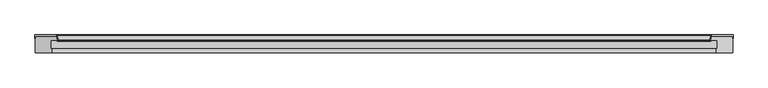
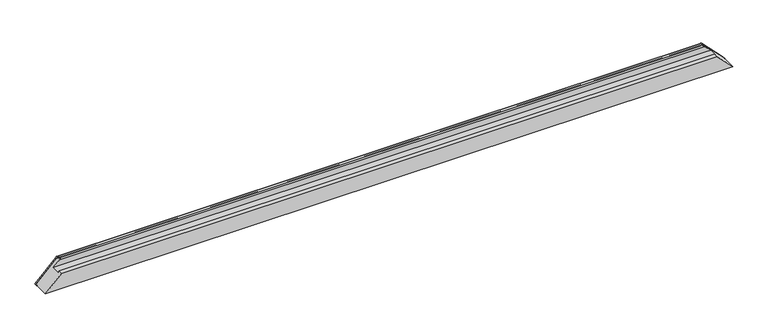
"""IFC4 building model written with IfcOpenShell, lengths in millimetres: proxy geometry, Weiku - Montante - Caixilho 02.2.01.005 : Weiku - Montante - Caixilho 02.2.01.005."""

from ifc_helpers import new_model, si_unit, frame, origin, place, context, project, spatial, polyline, ellipse_curve, source, transform, mapped, element, save
from ifc_brep_helpers import plane_surface, cylinder_surface, revolved_surface, advanced_brep


def generic_models_9984576e(model_context):
    return source(origin(), model_context, "Body", "AdvancedBrep", [
        advanced_brep(
        [(983.4663236, 4.0, 64.0336764), (982.5003978, 3.258819, 64.9996022), (978.6863753, -10.9753067, 68.8136247), (981.3909676, -14.5, 66.1090324), (981.3909676, -12.5, 66.1090324), (980.618227, -11.4929448, 66.881773), (983.1019557, -2.2235429, 64.3980443), (985.9997332, 0.0, 61.5002668), (1047.5, 0.0, 0.0), (1047.5, -6.4862095, 0.0), (1048.5, -6.4862095, -1.0), (1048.5, 4.0, -1.0), (-1048.5, 4.0, -1.0), (-1048.5, -6.4862095, -1.0), (-1047.5, -6.4862095, 0.0), (-1047.5, 0.0, 0.0), (-985.9997332, 0.0, 61.5002668), (-983.1019557, -2.2235429, 64.3980443), (-980.618227, -11.4929448, 66.881773), (-981.3909676, -12.5, 66.1090324), (-981.3909676, -14.5, 66.1090324), (-978.6863753, -10.9753067, 68.8136247), (-982.5003978, 3.258819, 64.9996022), (-983.4663236, 4.0, 64.0336764)],
        [
            (0, 1, ellipse_curve(frame((983.4663236, 3.0, 64.0336764), z_axis=(0.7071067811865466, 0.0, 0.7071067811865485), x_axis=(-0.7071067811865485, 0.0, 0.7071067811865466)), 1.4142136, 1.0)),
            (1, 2),
            (2, 3, ellipse_curve(frame((981.3909676, -11.7, 66.1090324), z_axis=(0.7071067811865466, 0.0, 0.7071067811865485), x_axis=(-0.7071067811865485, 0.0, 0.7071067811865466)), 3.959798, 2.8)),
            (3, 4),
            (4, 5, ellipse_curve(frame((981.3909676, -11.7, 66.1090324), z_axis=(-0.7071067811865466, 0.0, -0.7071067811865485), x_axis=(0.7071067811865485, 0.0, -0.7071067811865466)), 1.1313708, 0.8)),
            (5, 6),
            (6, 7, ellipse_curve(frame((985.9997332, -3.0, 61.5002668), z_axis=(-0.7071067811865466, 0.0, -0.7071067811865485), x_axis=(0.7071067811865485, 0.0, -0.7071067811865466)), 4.2426407, 3.0)),
            (7, 8),
            (8, 9),
            (9, 10),
            (10, 11),
            (11, 0),
            (12, 13),
            (13, 14),
            (14, 15),
            (15, 16),
            (16, 17, ellipse_curve(frame((-985.9997332, -3.0, 61.5002668), z_axis=(0.707106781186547, 0.0, -0.707106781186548), x_axis=(0.7071067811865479, 0.0, 0.707106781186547)), 4.2426407, 3.0)),
            (17, 18),
            (18, 19, ellipse_curve(frame((-981.3909676, -11.7, 66.1090324), z_axis=(0.707106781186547, 0.0, -0.707106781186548), x_axis=(0.7071067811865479, 0.0, 0.707106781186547)), 1.1313708, 0.8)),
            (19, 20),
            (20, 21, ellipse_curve(frame((-981.3909676, -11.7, 66.1090324), z_axis=(-0.707106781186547, 0.0, 0.707106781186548), x_axis=(-0.7071067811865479, 0.0, -0.707106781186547)), 3.959798, 2.8)),
            (21, 22),
            (22, 23, ellipse_curve(frame((-983.4663236, 3.0, 64.0336764), z_axis=(-0.707106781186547, 0.0, 0.707106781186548), x_axis=(-0.7071067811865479, 0.0, -0.707106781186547)), 1.4142136, 1.0)),
            (23, 12),
            (11, 12),
            (23, 0),
            (22, 1),
            (21, 2),
            (20, 3),
            (19, 4),
            (18, 5),
            (17, 6),
            (16, 7),
            (15, 8),
            (14, 9),
            (13, 10),
        ],
        [
            plane_surface(frame((977.5, 15.0, 70.0), z_axis=(0.7071067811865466, 0.0, 0.7071067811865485), x_axis=(0.0, -1.0, 0.0))),
            plane_surface(frame((-1117.5, 15.0, -70.0), z_axis=(-0.707106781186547, 0.0, 0.707106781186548), x_axis=(0.0, -1.0, 0.0))),
            plane_surface(frame((-1050.3284271, 4.0, -1.0), z_axis=(0.0, 1.0, 0.0), x_axis=(1.0, 0.0, 0.0))),
            cylinder_surface(frame((-1050.3284271, 3.0, 64.0336764), z_axis=(-1.0, 0.0, 0.0), x_axis=(0.0, -1.0, 0.0)), 1.0),
            plane_surface(frame((-1050.3284271, 3.258819, 64.9996022), z_axis=(0.0, 0.25881904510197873, 0.9659258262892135), x_axis=(1.0, 0.0, 0.0))),
            cylinder_surface(frame((-1050.3284271, -11.7, 66.1090324), z_axis=(-1.0, 0.0, 0.0), x_axis=(0.0, -1.0, 0.0)), 2.8),
            plane_surface(frame((-1050.3284271, -14.5, 66.1090324), z_axis=(0.0, 0.0, -1.0), x_axis=(1.0, 0.0, 0.0))),
            revolved_surface(polyline([(982.1909675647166, -12.5, 66.1090324), (-982.1909675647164, -12.5, 66.1090324)]), (-1050.3284271, -11.7, 66.1090324), (1.0, 0.0, 0.0)),
            plane_surface(frame((-1050.3284271, -11.4929448, 66.881773), z_axis=(0.0, -0.2588190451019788, -0.9659258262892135), x_axis=(1.0, 0.0, 0.0))),
            revolved_surface(polyline([(988.9997332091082, -6.0, 61.5002668), (-988.9997332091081, -6.0, 61.5002668)]), (-1050.3284271, -3.0, 61.5002668), (1.0, 0.0, 0.0)),
            plane_surface(frame((-1050.3284271, 0.0, 61.5002668), z_axis=(0.0, -1.0, 0.0), x_axis=(1.0, 0.0, 0.0))),
            plane_surface(frame((-1050.3284271, 0.0, 0.0), z_axis=(0.0, 0.0, 1.0), x_axis=(1.0, 0.0, 0.0))),
            plane_surface(frame((-1050.3284271, -6.4862095, 0.0), z_axis=(0.0, -1.0, 0.0), x_axis=(1.0, 0.0, 0.0))),
            plane_surface(frame((-1050.3284271, -6.4862095, -1.0), z_axis=(0.0, 0.0, -1.0), x_axis=(1.0, 0.0, 0.0))),
        ],
        [
            (0, [[1, 2, 3, 4, 5, 6, 7, 8, 9, 10, 11, 12]]),
            (1, [[13, 14, 15, 16, 17, 18, 19, 20, 21, 22, 23, 24]]),
            (2, [[25, -24, 26, -12]]),
            (3, [[-26, -23, 27, -1]]),
            (4, [[-27, -22, 28, -2]]),
            (5, [[-28, -21, 29, -3]]),
            (6, [[-29, -20, 30, -4]]),
            (7, [[-30, -19, 31, -5]]),
            (8, [[-31, -18, 32, -6]]),
            (9, [[-32, -17, 33, -7]]),
            (10, [[-33, -16, 34, -8]]),
            (11, [[-34, -15, 35, -9]]),
            (12, [[-35, -14, 36, -10]]),
            (13, [[-36, -13, -25, -11]]),
        ],
    ),
        advanced_brep(
        [(-1001.5, -12.5, 46.0), (1001.5, -12.5, 46.0), (981.3909676, -12.5, 66.1090324), (-981.3909676, -12.5, 66.1090324), (-1001.5, -37.8314286, 46.0), (1001.5, -37.8314286, 46.0), (-998.5, -37.027581, 49.0), (998.5, -37.027581, 49.0), (-998.5, -50.0, 49.0), (998.5, -50.0, 49.0), (1047.5, -50.0, 0.0), (-1047.5, -50.0, 0.0), (-1047.5, 0.0, 0.0), (1047.5, 0.0, 0.0), (-985.9997332, 0.0, 61.5002668), (985.9997332, 0.0, 61.5002668), (-980.618227, -11.4929448, 66.881773), (980.618227, -11.4929448, 66.881773), (983.1019557, -2.2235429, 64.3980443), (-983.1019557, -2.2235429, 64.3980443)],
        [
            (0, 1),
            (1, 2),
            (2, 3),
            (3, 0),
            (4, 5),
            (5, 1),
            (0, 4),
            (6, 7),
            (7, 5),
            (4, 6),
            (8, 9),
            (9, 7),
            (6, 8),
            (10, 9),
            (8, 11),
            (11, 10),
            (11, 12),
            (12, 13),
            (13, 10),
            (12, 14),
            (14, 15),
            (15, 13),
            (16, 17),
            (17, 18),
            (18, 19),
            (19, 16),
            (3, 16, ellipse_curve(frame((-981.3909676, -11.7, 66.1090324), z_axis=(-0.707106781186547, 0.0, 0.707106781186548), x_axis=(-0.7071067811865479, 0.0, -0.707106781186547)), 1.1313708, 0.8)),
            (19, 14, ellipse_curve(frame((-985.9997332, -3.0, 61.5002668), z_axis=(-0.707106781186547, 0.0, 0.707106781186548), x_axis=(-0.7071067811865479, 0.0, -0.707106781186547)), 4.2426407, 3.0)),
            (15, 18, ellipse_curve(frame((985.9997332, -3.0, 61.5002668), z_axis=(0.7071067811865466, 0.0, 0.7071067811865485), x_axis=(-0.7071067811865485, 0.0, 0.7071067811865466)), 4.2426407, 3.0)),
            (17, 2, ellipse_curve(frame((981.3909676, -11.7, 66.1090324), z_axis=(0.7071067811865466, 0.0, 0.7071067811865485), x_axis=(-0.7071067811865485, 0.0, 0.7071067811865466)), 1.1313708, 0.8)),
        ],
        [
            plane_surface(frame((-1047.5, -12.5, 66.1090324), z_axis=(0.0, -1.0, 0.0), x_axis=(1.0, 0.0, 0.0))),
            plane_surface(frame((-1047.5, -12.5, 46.0), z_axis=(0.0, 0.0, 1.0), x_axis=(1.0, 0.0, 0.0))),
            plane_surface(frame((-1047.5, -37.8314286, 46.0), z_axis=(0.0, 0.9659258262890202, -0.2588190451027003), x_axis=(1.0, 0.0, 0.0))),
            plane_surface(frame((-1047.5, -37.027581, 49.0), z_axis=(0.0, 0.0, 1.0), x_axis=(1.0, 0.0, 0.0))),
            plane_surface(frame((-1047.5, -50.0, 49.0), z_axis=(0.0, -1.0, 0.0), x_axis=(1.0, 0.0, 0.0))),
            plane_surface(frame((-1047.5, -50.0, 0.0), z_axis=(0.0, 0.0, -1.0), x_axis=(1.0, 0.0, 0.0))),
            plane_surface(frame((-1047.5, 0.0, 0.0), z_axis=(0.0, 1.0, 0.0), x_axis=(1.0, 0.0, 0.0))),
            plane_surface(frame((-1047.5, -2.2235429, 64.3980443), z_axis=(0.0, 0.2588190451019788, 0.9659258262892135), x_axis=(1.0, 0.0, 0.0))),
            plane_surface(frame((-1117.5, 15.0, -70.0), z_axis=(-0.707106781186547, 0.0, 0.707106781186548), x_axis=(0.0, -1.0, 0.0))),
            plane_surface(frame((977.5, 15.0, 70.0), z_axis=(0.7071067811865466, 0.0, 0.7071067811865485), x_axis=(0.0, -1.0, 0.0))),
            cylinder_surface(frame((-1047.5, -11.7, 66.1090324), z_axis=(-1.0, 0.0, 0.0), x_axis=(0.0, -1.0, 0.0)), 0.8),
            cylinder_surface(frame((-1047.5, -3.0, 61.5002668), z_axis=(-1.0, 0.0, 0.0), x_axis=(0.0, -1.0, 0.0)), 3.0),
        ],
        [
            (0, [[1, 2, 3, 4]]),
            (1, [[5, 6, -1, 7]]),
            (2, [[8, 9, -5, 10]]),
            (3, [[11, 12, -8, 13]]),
            (4, [[14, -11, 15, 16]]),
            (5, [[17, 18, 19, -16]]),
            (6, [[20, 21, 22, -18]]),
            (7, [[23, 24, 25, 26]]),
            (8, [[27, -26, 28, -20, -17, -15, -13, -10, -7, -4]]),
            (9, [[-6, -9, -12, -14, -19, -22, 29, -24, 30, -2]]),
            (10, [[-3, -30, -23, -27]]),
            (11, [[-25, -29, -21, -28]]),
        ],
    ),
    ])


if __name__ == "__main__":
    model = new_model("IFC4")
    model_context = context("Model", 3, world=origin())
    ifc_project = project(units=[si_unit("LENGTHUNIT", "METRE", prefix="MILLI")], contexts=[model_context])
    site = spatial("IfcSite", under=ifc_project)
    building = spatial("IfcBuilding", under=site)
    placement = place(None, origin())
    generic_models_shape = generic_models_9984576e(model_context)
    element("IfcBuildingElementProxy", 1, Name="Weiku - Montante - Caixilho 02.2.01.005 : Weiku - Montante - Caixilho 02.2.01.005", ObjectType="Weiku - Montante - Caixilho 02.2.01.005 : Weiku - Montante - Caixilho 02.2.01.005", at=placement, inside=building, context=model_context, shape_type="MappedRepresentation", body=[
        mapped(generic_models_shape, transform((0.0, 0.0, 0.0), x_axis=(1.0, 0.0, 0.0), y_axis=(0.0, 1.0, 0.0), z_axis=(0.0, 0.0, 1.0))),
    ])
    save(model, "model.ifc")
